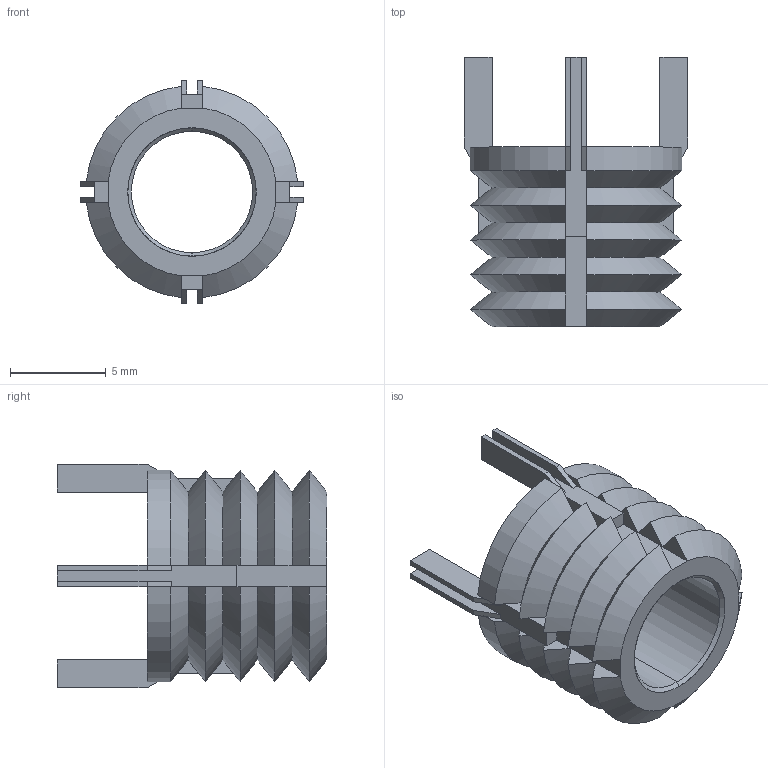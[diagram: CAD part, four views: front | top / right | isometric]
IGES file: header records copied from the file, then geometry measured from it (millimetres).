
Start section: SolidWorks IGES file using analytic representation for surfaces
Global section: file name: C:\Users\IanO\Desktop\TR1575\TR1575_v2_20230420_IGES\TR1575.65902.igs; native system: SolidWorks 2019; preprocessor: SolidWorks 2019; author: IanO; date: 230420.093039; units: inch
Bounding box: 11.68 x 14.1 x 11.68 mm (x, y, z)
Surface area: 960.9 mm2 (no closed solid volume)
Topology: 0 solids, 0 shells, 140 faces, 744 edges, 744 vertices
Faces by surface type: bspline 94, revolution 46
